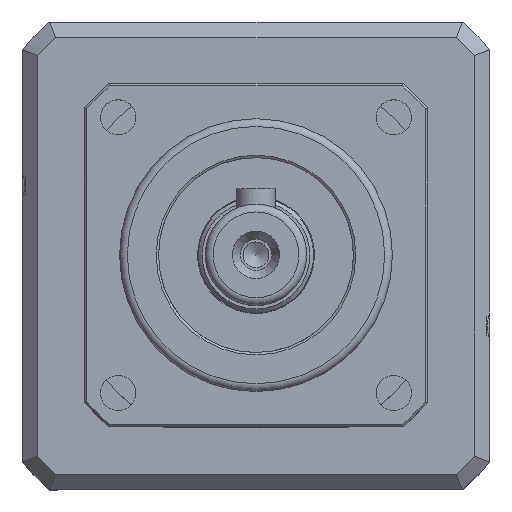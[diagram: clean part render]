
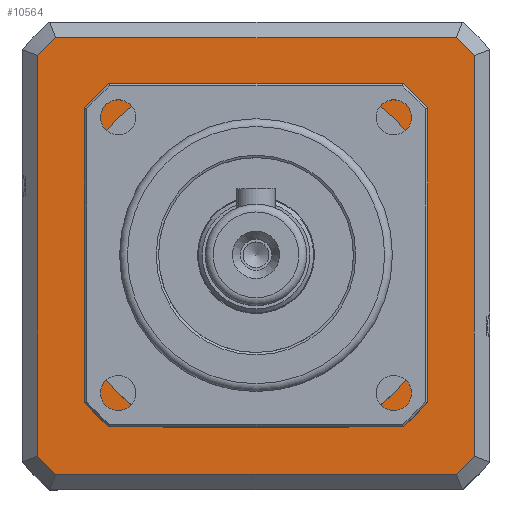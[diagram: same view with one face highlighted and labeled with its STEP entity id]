
A CAD part, top view. The second image highlights one B-rep face of the part: STEP entity #10564.
In plain terms, the highlighted planar face has unit normal (0, 0, 1).
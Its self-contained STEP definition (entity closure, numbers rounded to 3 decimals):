
#10419=CARTESIAN_POINT('',(-30.,-30.,-53.5));
#10420=DIRECTION('',(0.0,0.0,1.0));
#10421=DIRECTION('',(1.0,0.0,0.0));
#10422=AXIS2_PLACEMENT_3D('',#10419,#10420,#10421);
#10423=PLANE('',#10422);
#10424=CARTESIAN_POINT('',(25.69,28.,-53.5));
#10425=VERTEX_POINT('',#10424);
#10426=CARTESIAN_POINT('',(-25.69,28.,-53.5));
#10427=VERTEX_POINT('',#10426);
#10428=CARTESIAN_POINT('',(25.69,28.,-53.5));
#10429=DIRECTION('',(-1.0,0.0,0.0));
#10430=VECTOR('',#10429,51.381);
#10431=LINE('',#10428,#10430);
#10432=EDGE_CURVE('',#10425,#10427,#10431,.T.);
#10433=ORIENTED_EDGE('',*,*,#10432,.T.);
#10434=CARTESIAN_POINT('',(-28.,25.69,-53.5));
#10435=VERTEX_POINT('',#10434);
#10436=CARTESIAN_POINT('',(0.,0.,-53.5));
#10437=DIRECTION('',(0.0,0.0,1.0));
#10438=DIRECTION('',(1.0,0.0,0.0));
#10439=AXIS2_PLACEMENT_3D('',#10436,#10437,#10438);
#10440=CIRCLE('',#10439,38.);
#10441=EDGE_CURVE('',#10427,#10435,#10440,.T.);
#10442=ORIENTED_EDGE('',*,*,#10441,.T.);
#10443=CARTESIAN_POINT('',(-28.,-25.69,-53.5));
#10444=VERTEX_POINT('',#10443);
#10445=CARTESIAN_POINT('',(-28.,25.69,-53.5));
#10446=DIRECTION('',(0.0,-1.0,0.0));
#10447=VECTOR('',#10446,51.381);
#10448=LINE('',#10445,#10447);
#10449=EDGE_CURVE('',#10435,#10444,#10448,.T.);
#10450=ORIENTED_EDGE('',*,*,#10449,.T.);
#10451=CARTESIAN_POINT('',(-25.69,-28.,-53.5));
#10452=VERTEX_POINT('',#10451);
#10453=CARTESIAN_POINT('',(0.,0.,-53.5));
#10454=DIRECTION('',(0.0,0.0,1.0));
#10455=DIRECTION('',(1.0,0.0,0.0));
#10456=AXIS2_PLACEMENT_3D('',#10453,#10454,#10455);
#10457=CIRCLE('',#10456,38.);
#10458=EDGE_CURVE('',#10444,#10452,#10457,.T.);
#10459=ORIENTED_EDGE('',*,*,#10458,.T.);
#10460=CARTESIAN_POINT('',(25.69,-28.,-53.5));
#10461=VERTEX_POINT('',#10460);
#10462=CARTESIAN_POINT('',(-25.69,-28.,-53.5));
#10463=DIRECTION('',(1.0,0.0,0.0));
#10464=VECTOR('',#10463,51.381);
#10465=LINE('',#10462,#10464);
#10466=EDGE_CURVE('',#10452,#10461,#10465,.T.);
#10467=ORIENTED_EDGE('',*,*,#10466,.T.);
#10468=CARTESIAN_POINT('',(28.,-25.69,-53.5));
#10469=VERTEX_POINT('',#10468);
#10470=CARTESIAN_POINT('',(0.,0.,-53.5));
#10471=DIRECTION('',(0.0,0.0,1.0));
#10472=DIRECTION('',(1.0,0.0,0.0));
#10473=AXIS2_PLACEMENT_3D('',#10470,#10471,#10472);
#10474=CIRCLE('',#10473,38.);
#10475=EDGE_CURVE('',#10461,#10469,#10474,.T.);
#10476=ORIENTED_EDGE('',*,*,#10475,.T.);
#10477=CARTESIAN_POINT('',(28.,25.69,-53.5));
#10478=VERTEX_POINT('',#10477);
#10479=CARTESIAN_POINT('',(28.,-25.69,-53.5));
#10480=DIRECTION('',(0.0,1.0,0.0));
#10481=VECTOR('',#10480,51.381);
#10482=LINE('',#10479,#10481);
#10483=EDGE_CURVE('',#10469,#10478,#10482,.T.);
#10484=ORIENTED_EDGE('',*,*,#10483,.T.);
#10485=CARTESIAN_POINT('',(0.,0.,-53.5));
#10486=DIRECTION('',(0.0,0.0,1.0));
#10487=DIRECTION('',(1.0,0.0,0.0));
#10488=AXIS2_PLACEMENT_3D('',#10485,#10486,#10487);
#10489=CIRCLE('',#10488,38.);
#10490=EDGE_CURVE('',#10478,#10425,#10489,.T.);
#10491=ORIENTED_EDGE('',*,*,#10490,.T.);
#10492=EDGE_LOOP('',(#10433,#10442,#10450,#10459,#10467,#10476,#10484,#10491));
#10493=FACE_OUTER_BOUND('',#10492,.T.);
#10494=CARTESIAN_POINT('',(-22.,11.874,-53.5));
#10495=VERTEX_POINT('',#10494);
#10496=CARTESIAN_POINT('',(-22.,-11.874,-53.5));
#10497=VERTEX_POINT('',#10496);
#10498=CARTESIAN_POINT('',(-22.,11.874,-53.5));
#10499=DIRECTION('',(0.0,-1.0,0.0));
#10500=VECTOR('',#10499,23.749);
#10501=LINE('',#10498,#10500);
#10502=EDGE_CURVE('',#10495,#10497,#10501,.T.);
#10503=ORIENTED_EDGE('',*,*,#10502,.F.);
#10504=CARTESIAN_POINT('',(-11.874,22.,-53.5));
#10505=VERTEX_POINT('',#10504);
#10506=CARTESIAN_POINT('',(0.,0.,-53.5));
#10507=DIRECTION('',(0.0,0.0,1.0));
#10508=DIRECTION('',(1.0,0.0,0.0));
#10509=AXIS2_PLACEMENT_3D('',#10506,#10507,#10508);
#10510=CIRCLE('',#10509,25.);
#10511=EDGE_CURVE('',#10505,#10495,#10510,.T.);
#10512=ORIENTED_EDGE('',*,*,#10511,.F.);
#10513=CARTESIAN_POINT('',(11.874,22.,-53.5));
#10514=VERTEX_POINT('',#10513);
#10515=CARTESIAN_POINT('',(11.874,22.,-53.5));
#10516=DIRECTION('',(-1.0,0.0,0.0));
#10517=VECTOR('',#10516,23.749);
#10518=LINE('',#10515,#10517);
#10519=EDGE_CURVE('',#10514,#10505,#10518,.T.);
#10520=ORIENTED_EDGE('',*,*,#10519,.F.);
#10521=CARTESIAN_POINT('',(22.,11.874,-53.5));
#10522=VERTEX_POINT('',#10521);
#10523=CARTESIAN_POINT('',(0.,0.,-53.5));
#10524=DIRECTION('',(0.0,0.0,1.0));
#10525=DIRECTION('',(1.0,0.0,0.0));
#10526=AXIS2_PLACEMENT_3D('',#10523,#10524,#10525);
#10527=CIRCLE('',#10526,25.);
#10528=EDGE_CURVE('',#10522,#10514,#10527,.T.);
#10529=ORIENTED_EDGE('',*,*,#10528,.F.);
#10530=CARTESIAN_POINT('',(22.,-11.874,-53.5));
#10531=VERTEX_POINT('',#10530);
#10532=CARTESIAN_POINT('',(22.,-11.874,-53.5));
#10533=DIRECTION('',(0.0,1.0,0.0));
#10534=VECTOR('',#10533,23.749);
#10535=LINE('',#10532,#10534);
#10536=EDGE_CURVE('',#10531,#10522,#10535,.T.);
#10537=ORIENTED_EDGE('',*,*,#10536,.F.);
#10538=CARTESIAN_POINT('',(11.874,-22.,-53.5));
#10539=VERTEX_POINT('',#10538);
#10540=CARTESIAN_POINT('',(0.,0.,-53.5));
#10541=DIRECTION('',(0.0,0.0,1.0));
#10542=DIRECTION('',(1.0,0.0,0.0));
#10543=AXIS2_PLACEMENT_3D('',#10540,#10541,#10542);
#10544=CIRCLE('',#10543,25.);
#10545=EDGE_CURVE('',#10539,#10531,#10544,.T.);
#10546=ORIENTED_EDGE('',*,*,#10545,.F.);
#10547=CARTESIAN_POINT('',(-11.874,-22.,-53.5));
#10548=VERTEX_POINT('',#10547);
#10549=CARTESIAN_POINT('',(-11.874,-22.,-53.5));
#10550=DIRECTION('',(1.0,0.0,0.0));
#10551=VECTOR('',#10550,23.749);
#10552=LINE('',#10549,#10551);
#10553=EDGE_CURVE('',#10548,#10539,#10552,.T.);
#10554=ORIENTED_EDGE('',*,*,#10553,.F.);
#10555=CARTESIAN_POINT('',(0.,0.,-53.5));
#10556=DIRECTION('',(0.0,0.0,1.0));
#10557=DIRECTION('',(1.0,0.0,0.0));
#10558=AXIS2_PLACEMENT_3D('',#10555,#10556,#10557);
#10559=CIRCLE('',#10558,25.);
#10560=EDGE_CURVE('',#10497,#10548,#10559,.T.);
#10561=ORIENTED_EDGE('',*,*,#10560,.F.);
#10562=EDGE_LOOP('',(#10503,#10512,#10520,#10529,#10537,#10546,#10554,#10561));
#10563=FACE_BOUND('',#10562,.T.);
#10564=ADVANCED_FACE('',(#10493,#10563),#10423,.T.);
